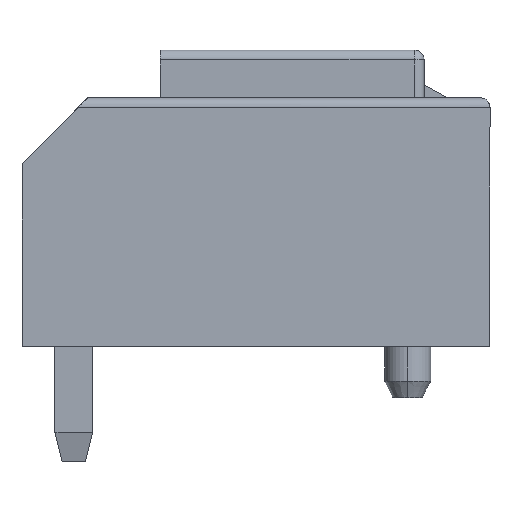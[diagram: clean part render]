
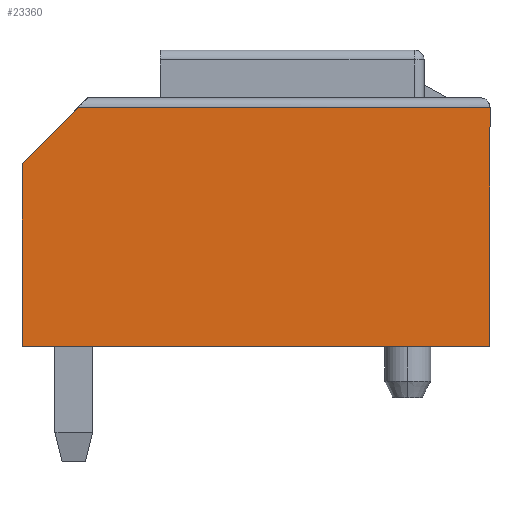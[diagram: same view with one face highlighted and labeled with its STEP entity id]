
A CAD part, left-side view. The second image highlights one B-rep face of the part: STEP entity #23360.
In plain terms, the highlighted planar face has unit normal (-1, 0, 0).
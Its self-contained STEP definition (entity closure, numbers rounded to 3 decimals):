
#17050=CARTESIAN_POINT('',(-6.31,-7.1,0.));
#17060=VERTEX_POINT('',#17050);
#17090=CARTESIAN_POINT('',(-6.31,-7.1,0.));
#17100=DIRECTION('',(0.,0.,1.));
#17110=VECTOR('',#17100,1.);
#17120=LINE('',#17090,#17110);
#17130=CARTESIAN_POINT('',(-6.31,-7.1,7.25));
#17140=VERTEX_POINT('',#17130);
#17150=EDGE_CURVE('',#17060,#17140,#17120,.T.);
#22860=CARTESIAN_POINT('',(-6.31,5.4,7.25));
#22870=DIRECTION('',(0.,-1.,0.));
#22880=VECTOR('',#22870,1.);
#22890=LINE('',#22860,#22880);
#22900=CARTESIAN_POINT('',(-6.31,5.4,7.25));
#22910=VERTEX_POINT('',#22900);
#22920=EDGE_CURVE('',#22910,#17140,#22890,.T.);
#23050=CARTESIAN_POINT('',(-6.31,7.455,7.431));
#23060=DIRECTION('',(-1.,0.,0.));
#23070=DIRECTION('',(0.,-1.,0.));
#23080=AXIS2_PLACEMENT_3D('',#23050,#23060,#23070);
#23090=PLANE('',#23080);
#23100=CARTESIAN_POINT('',(-6.31,-7.1,0.));
#23110=DIRECTION('',(0.,1.,0.));
#23120=VECTOR('',#23110,1.);
#23130=LINE('',#23100,#23120);
#23140=CARTESIAN_POINT('',(-6.31,7.1,0.));
#23150=VERTEX_POINT('',#23140);
#23160=EDGE_CURVE('',#17060,#23150,#23130,.T.);
#23170=ORIENTED_EDGE('',*,*,#23160,.F.);
#23180=CARTESIAN_POINT('',(-6.31,7.1,5.55));
#23190=DIRECTION('',(0.,0.,-1.));
#23200=VECTOR('',#23190,1.);
#23210=LINE('',#23180,#23200);
#23220=CARTESIAN_POINT('',(-6.31,7.1,5.55));
#23230=VERTEX_POINT('',#23220);
#23240=EDGE_CURVE('',#23230,#23150,#23210,.T.);
#23250=ORIENTED_EDGE('',*,*,#23240,.T.);
#23260=CARTESIAN_POINT('',(-6.31,5.4,7.25));
#23270=DIRECTION('',(0.,0.707,-0.707));
#23280=VECTOR('',#23270,1.);
#23290=LINE('',#23260,#23280);
#23300=EDGE_CURVE('',#22910,#23230,#23290,.T.);
#23310=ORIENTED_EDGE('',*,*,#23300,.T.);
#23320=ORIENTED_EDGE('',*,*,#22920,.F.);
#23330=ORIENTED_EDGE('',*,*,#17150,.T.);
#23340=EDGE_LOOP('',(#23330,#23320,#23310,#23250,#23170));
#23350=FACE_OUTER_BOUND('',#23340,.T.);
#23360=ADVANCED_FACE('',(#23350),#23090,.T.);
